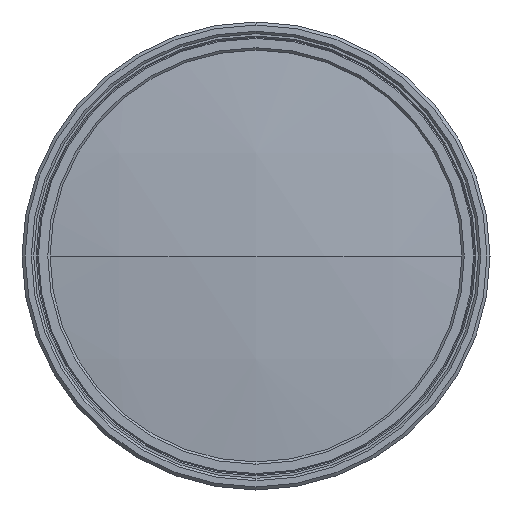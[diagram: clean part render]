
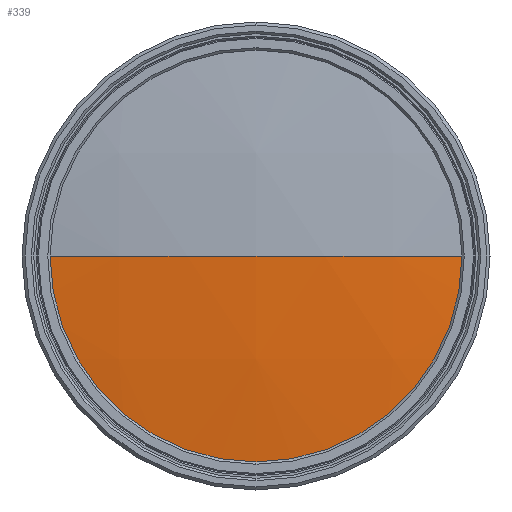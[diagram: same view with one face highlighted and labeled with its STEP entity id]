
A CAD part, left-side view. The second image highlights one B-rep face of the part: STEP entity #339.
In plain terms, the highlighted spherical face has radius 256 mm.
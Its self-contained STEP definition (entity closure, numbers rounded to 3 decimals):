
#156 = VERTEX_POINT ( 'NONE', #1969 ) ;
#310 = VERTEX_POINT ( 'NONE', #2284 ) ;
#339 = ADVANCED_FACE ( 'NONE', ( #1793 ), #350, .T. ) ;
#350 = SPHERICAL_SURFACE ( 'NONE', #617, 256. ) ;
#443 = VERTEX_POINT ( 'NONE', #1207 ) ;
#492 = CARTESIAN_POINT ( 'NONE',  ( 6.848, -33., 0. ) ) ;
#536 = CARTESIAN_POINT ( 'NONE',  ( 6.848, 0., 0. ) ) ;
#617 = AXIS2_PLACEMENT_3D ( 'NONE', #2003, #2333, #1465 ) ;
#789 = DIRECTION ( 'NONE',  ( 0., 0., 1. ) ) ;
#812 = CIRCLE ( 'NONE', #910, 33. ) ;
#823 = DIRECTION ( 'NONE',  ( 0., 0., 1. ) ) ;
#867 = ORIENTED_EDGE ( 'NONE', *, *, #2859, .T. ) ;
#910 = AXIS2_PLACEMENT_3D ( 'NONE', #536, #2557, #823 ) ;
#959 = CARTESIAN_POINT ( 'NONE',  ( 6.848, 0., 0. ) ) ;
#1037 = CARTESIAN_POINT ( 'NONE',  ( 260.712, 0., 0. ) ) ;
#1207 = CARTESIAN_POINT ( 'NONE',  ( 6.848, 0., -33. ) ) ;
#1246 = DIRECTION ( 'NONE',  ( 0., 0., 1. ) ) ;
#1254 = EDGE_CURVE ( 'NONE', #156, #310, #3298, .T. ) ;
#1279 = EDGE_CURVE ( 'NONE', #443, #2030, #812, .T. ) ;
#1324 = DIRECTION ( 'NONE',  ( 0., 1., 0. ) ) ;
#1404 = ORIENTED_EDGE ( 'NONE', *, *, #1279, .T. ) ;
#1465 = DIRECTION ( 'NONE',  ( 0., 1., 0. ) ) ;
#1706 = EDGE_LOOP ( 'NONE', ( #1404, #3466, #3011, #867 ) ) ;
#1793 = FACE_OUTER_BOUND ( 'NONE', #1706, .T. ) ;
#1969 = CARTESIAN_POINT ( 'NONE',  ( 6.848, 33., 0. ) ) ;
#2003 = CARTESIAN_POINT ( 'NONE',  ( 260.712, 0., 0. ) ) ;
#2030 = VERTEX_POINT ( 'NONE', #492 ) ;
#2054 = AXIS2_PLACEMENT_3D ( 'NONE', #1037, #3051, #1324 ) ;
#2284 = CARTESIAN_POINT ( 'NONE',  ( 4.712, 0., 0. ) ) ;
#2333 = DIRECTION ( 'NONE',  ( 0., 0., -1. ) ) ;
#2469 = CIRCLE ( 'NONE', #2054, 256. ) ;
#2496 = EDGE_CURVE ( 'NONE', #2030, #310, #2469, .T. ) ;
#2534 = CARTESIAN_POINT ( 'NONE',  ( 260.712, 0., 0. ) ) ;
#2557 = DIRECTION ( 'NONE',  ( -1., 0., 0. ) ) ;
#2763 = CIRCLE ( 'NONE', #3529, 33. ) ;
#2812 = DIRECTION ( 'NONE',  ( 1., 0., 0. ) ) ;
#2859 = EDGE_CURVE ( 'NONE', #156, #443, #2763, .T. ) ;
#2971 = DIRECTION ( 'NONE',  ( -1., 0., 0. ) ) ;
#3011 = ORIENTED_EDGE ( 'NONE', *, *, #1254, .F. ) ;
#3051 = DIRECTION ( 'NONE',  ( 0., 0., -1. ) ) ;
#3298 = CIRCLE ( 'NONE', #3307, 256. ) ;
#3307 = AXIS2_PLACEMENT_3D ( 'NONE', #2534, #789, #2812 ) ;
#3466 = ORIENTED_EDGE ( 'NONE', *, *, #2496, .T. ) ;
#3529 = AXIS2_PLACEMENT_3D ( 'NONE', #959, #2971, #1246 ) ;
